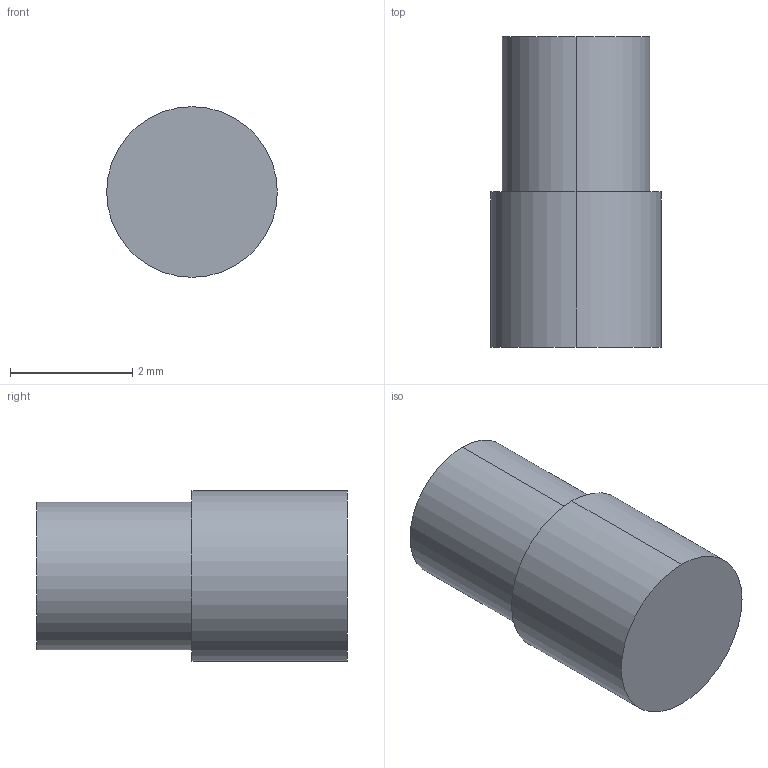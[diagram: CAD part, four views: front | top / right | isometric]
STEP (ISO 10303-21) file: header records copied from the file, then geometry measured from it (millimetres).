
FILE_DESCRIPTION (( 'STEP AP203' ), '1' );
FILE_NAME ('light peg 149.STEP', '2015-02-03T18:45:33', ( '' ), ( '' ), 'SwSTEP 2.0', 'SolidWorks 2014', '' );
FILE_SCHEMA (( 'CONFIG_CONTROL_DESIGN' ));
Length unit declared in the file: inch
Products named in the file (1): light peg 149
Bounding box: 2.79 x 5.08 x 2.79 mm (x, y, z)
Volume: 27.2 mm3; surface area: 53.8 mm2
Topology: 1 solids, 1 shells, 7 faces, 12 edges, 8 vertices
Faces by surface type: cylinder 4, plane 3
Entity records: 253 total; most frequent: DIRECTION 36, CARTESIAN_POINT 28, ORIENTED_EDGE 24, AXIS2_PLACEMENT_3D 16, EDGE_CURVE 12, CIRCLE 8, PERSON_AND_ORGANIZATION 8, VERTEX_POINT 8
